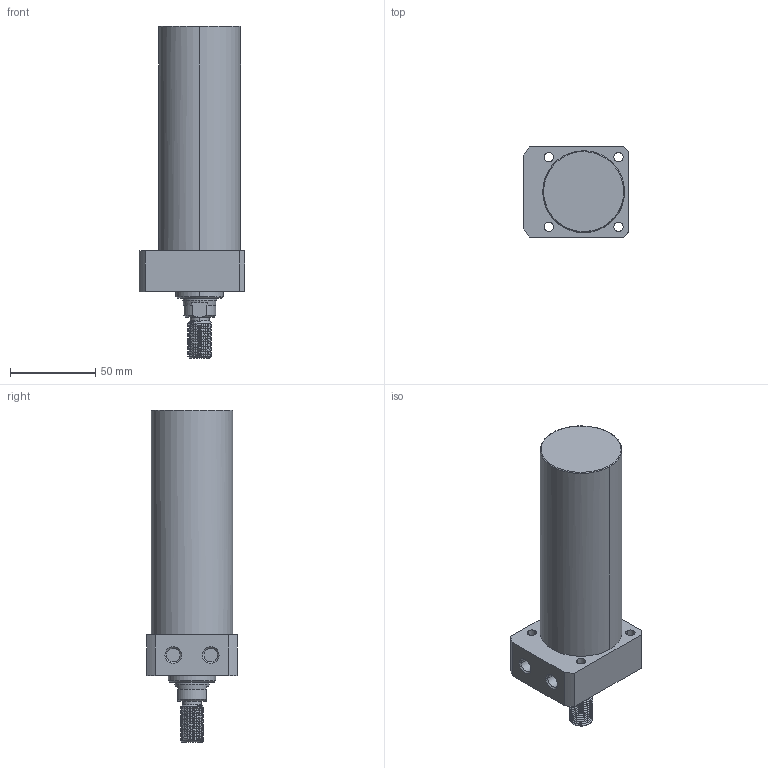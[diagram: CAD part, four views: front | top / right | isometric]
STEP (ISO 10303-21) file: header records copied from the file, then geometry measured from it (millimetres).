
FILE_DESCRIPTION((' '),'2;1');
FILE_NAME( 'TLLR-048CT-105.STEP.stp', '2025-10-24T16:34:36', (' '), ('--- Datakit www.datakit.com---'), ' Datakit CrossCadWare V2024.1 Dec 21 2023', 'Mastercam 2025', ' ');
FILE_SCHEMA(('AUTOMOTIVE_DESIGN { 1 0 10303 214 1 1 1 1 }'));
Length unit declared in the file: millimetre
Products named in the file (1): TLLR-048CT-105
Bounding box: 62 x 53 x 195 mm (x, y, z)
Volume: 321915.5 mm3; surface area: 36477.5 mm2
Topology: 1 solids, 1 shells, 96 faces, 331 edges, 245 vertices
Faces by surface type: cylinder 56, plane 20, cone 16, torus 2, bspline 2
Entity records: 9998 total; most frequent: CARTESIAN_POINT 7086, ORIENTED_EDGE 662, DIRECTION 503, EDGE_CURVE 331, VERTEX_POINT 245, AXIS2_PLACEMENT_3D 206, B_SPLINE_CURVE_WITH_KNOTS 129, EDGE_LOOP 112
